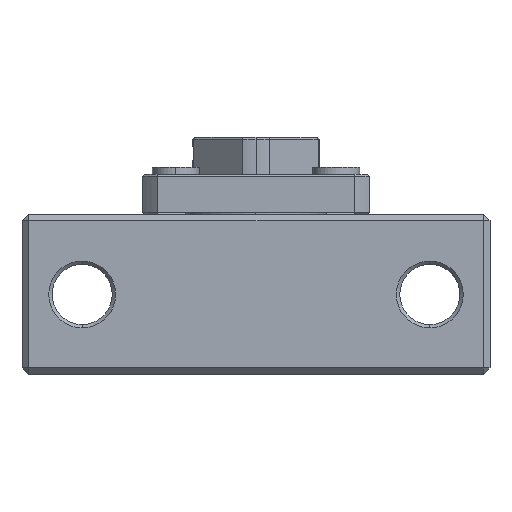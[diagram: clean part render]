
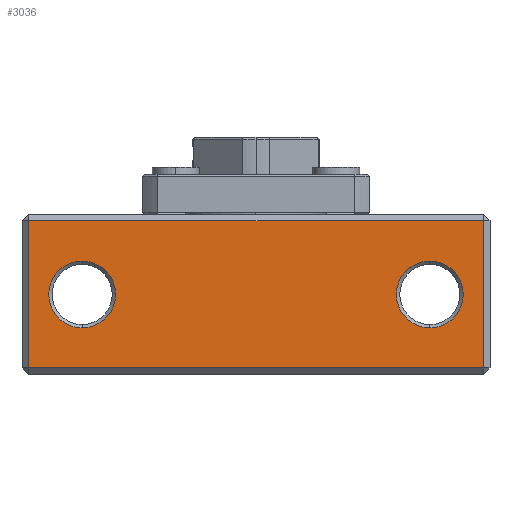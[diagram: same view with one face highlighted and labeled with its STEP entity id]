
A CAD part, front view. The second image highlights one B-rep face of the part: STEP entity #3036.
In plain terms, the highlighted planar face has unit normal (0, -1, 0).
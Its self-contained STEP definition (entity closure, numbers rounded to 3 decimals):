
#19 = CARTESIAN_POINT ( 'NONE',  ( -34., 0., 11. ) ) ;
#167 = EDGE_CURVE ( 'NONE', #2113, #4654, #2464, .T. ) ;
#190 = DIRECTION ( 'NONE',  ( 0., 1., 0. ) ) ;
#192 = CIRCLE ( 'NONE', #1191, 5. ) ;
#229 = ORIENTED_EDGE ( 'NONE', *, *, #167, .T. ) ;
#246 = EDGE_CURVE ( 'NONE', #1852, #5830, #475, .T. ) ;
#396 = ORIENTED_EDGE ( 'NONE', *, *, #3074, .T. ) ;
#475 = CIRCLE ( 'NONE', #1121, 5. ) ;
#689 = DIRECTION ( 'NONE',  ( -1., 0., 0. ) ) ;
#735 = DIRECTION ( 'NONE',  ( 0., 1., 0. ) ) ;
#764 = PLANE ( 'NONE',  #3347 ) ;
#766 = EDGE_LOOP ( 'NONE', ( #2989, #229, #396, #3330 ) ) ;
#878 = EDGE_CURVE ( 'NONE', #5249, #5164, #2185, .T. ) ;
#901 = VERTEX_POINT ( 'NONE', #3926 ) ;
#1121 = AXIS2_PLACEMENT_3D ( 'NONE', #3131, #190, #3393 ) ;
#1125 = DIRECTION ( 'NONE',  ( -1., 0., 0. ) ) ;
#1167 = DIRECTION ( 'NONE',  ( -1., 0., 0. ) ) ;
#1175 = DIRECTION ( 'NONE',  ( 0., 1., 0. ) ) ;
#1191 = AXIS2_PLACEMENT_3D ( 'NONE', #1194, #1175, #1125 ) ;
#1194 = CARTESIAN_POINT ( 'NONE',  ( 26., 0., 0. ) ) ;
#1221 = CIRCLE ( 'NONE', #5883, 5. ) ;
#1333 = ORIENTED_EDGE ( 'NONE', *, *, #5520, .T. ) ;
#1479 = VECTOR ( 'NONE', #2423, 1000. ) ;
#1554 = EDGE_CURVE ( 'NONE', #5164, #2113, #6071, .T. ) ;
#1628 = CARTESIAN_POINT ( 'NONE',  ( -26., 0., 5. ) ) ;
#1674 = CARTESIAN_POINT ( 'NONE',  ( 34., 0., 11. ) ) ;
#1740 = CARTESIAN_POINT ( 'NONE',  ( -35., 0., 11. ) ) ;
#1816 = CARTESIAN_POINT ( 'NONE',  ( -35., 0., 12. ) ) ;
#1852 = VERTEX_POINT ( 'NONE', #1628 ) ;
#2015 = VECTOR ( 'NONE', #1167, 1000. ) ;
#2073 = DIRECTION ( 'NONE',  ( -1., 0., 0. ) ) ;
#2095 = DIRECTION ( 'NONE',  ( 0., 1., 0. ) ) ;
#2113 = VERTEX_POINT ( 'NONE', #5791 ) ;
#2170 = CARTESIAN_POINT ( 'NONE',  ( 26., 0., 0. ) ) ;
#2185 = LINE ( 'NONE', #1740, #2015 ) ;
#2367 = CARTESIAN_POINT ( 'NONE',  ( 26., 0., 5. ) ) ;
#2423 = DIRECTION ( 'NONE',  ( 0., 0., -1. ) ) ;
#2464 = LINE ( 'NONE', #4261, #6343 ) ;
#2469 = ORIENTED_EDGE ( 'NONE', *, *, #3804, .T. ) ;
#2545 = CARTESIAN_POINT ( 'NONE',  ( -34., 0., 12. ) ) ;
#2989 = ORIENTED_EDGE ( 'NONE', *, *, #1554, .T. ) ;
#3036 = ADVANCED_FACE ( 'NONE', ( #3645, #4001, #3827 ), #764, .F. ) ;
#3074 = EDGE_CURVE ( 'NONE', #4654, #5249, #6410, .T. ) ;
#3115 = CIRCLE ( 'NONE', #5790, 5. ) ;
#3131 = CARTESIAN_POINT ( 'NONE',  ( -26., 0., 0. ) ) ;
#3330 = ORIENTED_EDGE ( 'NONE', *, *, #878, .T. ) ;
#3347 = AXIS2_PLACEMENT_3D ( 'NONE', #1816, #735, #689 ) ;
#3393 = DIRECTION ( 'NONE',  ( -1., 0., 0. ) ) ;
#3424 = EDGE_LOOP ( 'NONE', ( #2469, #3944 ) ) ;
#3469 = VECTOR ( 'NONE', #6132, 1000. ) ;
#3645 = FACE_BOUND ( 'NONE', #3424, .T. ) ;
#3752 = VERTEX_POINT ( 'NONE', #2367 ) ;
#3804 = EDGE_CURVE ( 'NONE', #5830, #1852, #1221, .T. ) ;
#3827 = FACE_OUTER_BOUND ( 'NONE', #766, .T. ) ;
#3926 = CARTESIAN_POINT ( 'NONE',  ( 26., 0., -5. ) ) ;
#3944 = ORIENTED_EDGE ( 'NONE', *, *, #246, .T. ) ;
#4001 = FACE_BOUND ( 'NONE', #6340, .T. ) ;
#4261 = CARTESIAN_POINT ( 'NONE',  ( -35., 0., -11. ) ) ;
#4283 = ORIENTED_EDGE ( 'NONE', *, *, #4482, .T. ) ;
#4291 = DIRECTION ( 'NONE',  ( 1., 0., 0. ) ) ;
#4482 = EDGE_CURVE ( 'NONE', #3752, #901, #192, .T. ) ;
#4617 = CARTESIAN_POINT ( 'NONE',  ( 34., 0., -11. ) ) ;
#4654 = VERTEX_POINT ( 'NONE', #4617 ) ;
#5164 = VERTEX_POINT ( 'NONE', #19 ) ;
#5249 = VERTEX_POINT ( 'NONE', #1674 ) ;
#5520 = EDGE_CURVE ( 'NONE', #901, #3752, #3115, .T. ) ;
#5528 = CARTESIAN_POINT ( 'NONE',  ( 34., 0., 12. ) ) ;
#5739 = CARTESIAN_POINT ( 'NONE',  ( -26., 0., 0. ) ) ;
#5790 = AXIS2_PLACEMENT_3D ( 'NONE', #2170, #2095, #2073 ) ;
#5791 = CARTESIAN_POINT ( 'NONE',  ( -34., 0., -11. ) ) ;
#5792 = DIRECTION ( 'NONE',  ( 0., 1., 0. ) ) ;
#5830 = VERTEX_POINT ( 'NONE', #6055 ) ;
#5845 = DIRECTION ( 'NONE',  ( -1., 0., 0. ) ) ;
#5883 = AXIS2_PLACEMENT_3D ( 'NONE', #5739, #5792, #5845 ) ;
#6055 = CARTESIAN_POINT ( 'NONE',  ( -26., 0., -5. ) ) ;
#6071 = LINE ( 'NONE', #2545, #1479 ) ;
#6132 = DIRECTION ( 'NONE',  ( 0., 0., 1. ) ) ;
#6340 = EDGE_LOOP ( 'NONE', ( #1333, #4283 ) ) ;
#6343 = VECTOR ( 'NONE', #4291, 1000. ) ;
#6410 = LINE ( 'NONE', #5528, #3469 ) ;
